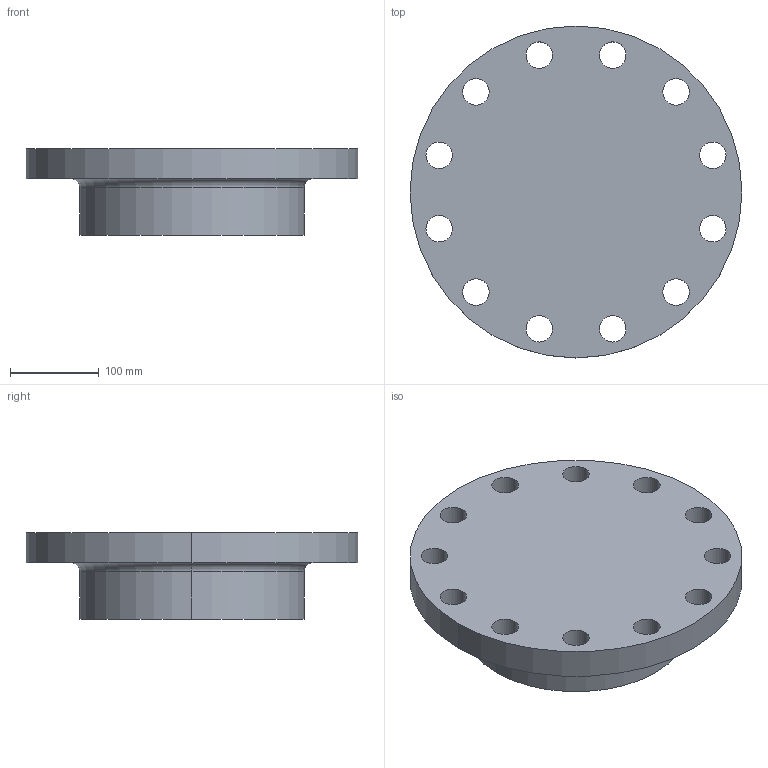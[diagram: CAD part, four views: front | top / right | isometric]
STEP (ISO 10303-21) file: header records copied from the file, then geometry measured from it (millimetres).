
FILE_DESCRIPTION (( 'STEP AP214' ), '1' );
FILE_NAME ('PN40 DN200 Type 21(i) - Type A Face.STEP', '2019-01-05T02:05:59', ( '' ), ( '' ), 'SwSTEP 2.0', 'SolidWorks 2019', '' );
FILE_SCHEMA (( 'AUTOMOTIVE_DESIGN' ));
Length unit declared in the file: millimetre
Products named in the file (1): PN40 DN200 Type 21(i) - Type A Face
Bounding box: 375 x 375 x 98 mm (x, y, z)
Volume: 6727140.3 mm3; surface area: 330126.4 mm2
Topology: 1 solids, 1 shells, 33 faces, 88 edges, 58 vertices
Faces by surface type: cylinder 28, plane 3, torus 2
Entity records: 1148 total; most frequent: DIRECTION 216, CARTESIAN_POINT 180, ORIENTED_EDGE 176, AXIS2_PLACEMENT_3D 94, EDGE_CURVE 88, CIRCLE 60, VERTEX_POINT 58, EDGE_LOOP 58
